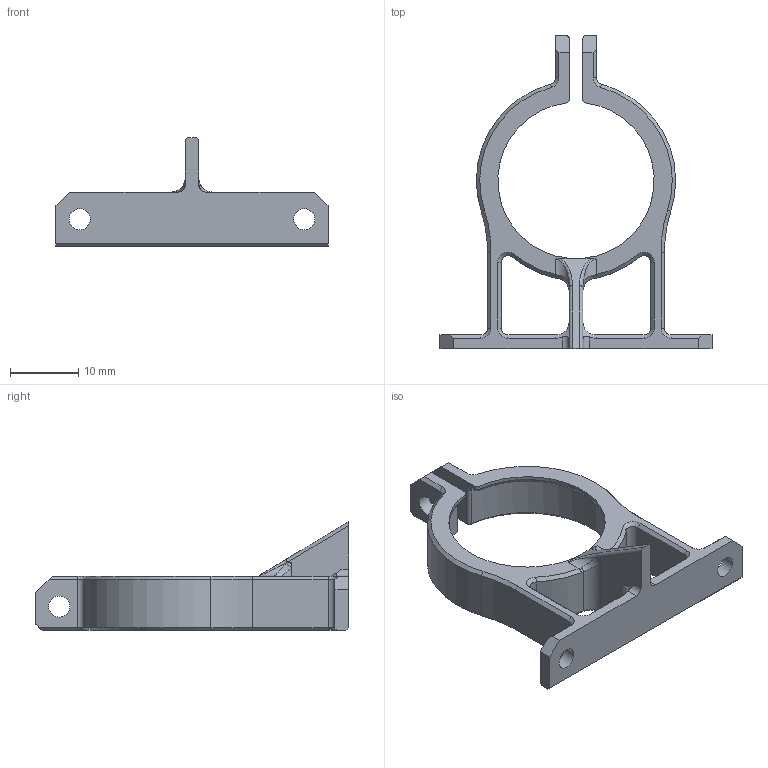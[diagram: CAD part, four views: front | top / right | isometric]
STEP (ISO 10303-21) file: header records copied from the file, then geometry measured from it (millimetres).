
FILE_DESCRIPTION(('STEP AP242'), '1');
FILE_NAME('Êðåïëåíèå Ðåäóêòîðà', '', ('UNSPECIFIED'), ('UNSPECIFIED'), 'C3D Converter', 'C3D Toolkit', '');
FILE_SCHEMA(('AP242_MANAGED_MODEL_BASED_3D_ENGINEERING_MIM_LF { 1 0 10303 442 1 1 4 }'));
Length unit declared in the file: millimetre
Products named in the file (1): Крепление Редуктора
Bounding box: 40 x 46.04 x 16 mm (x, y, z)
Volume: 2629.4 mm3; surface area: 3496.7 mm2
Topology: 1 solids, 1 shells, 148 faces, 375 edges, 227 vertices
Faces by surface type: plane 63, cylinder 38, cone 37, bspline 7, sphere 2, torus 1
Full cylindrical faces by diameter (mm): 3.1 x4
Entity records: 5280 total; most frequent: CARTESIAN_POINT 1728, ORIENTED_EDGE 742, DIRECTION 716, EDGE_CURVE 371, AXIS2_PLACEMENT_3D 246, VERTEX_POINT 227, LINE 224, VECTOR 224
